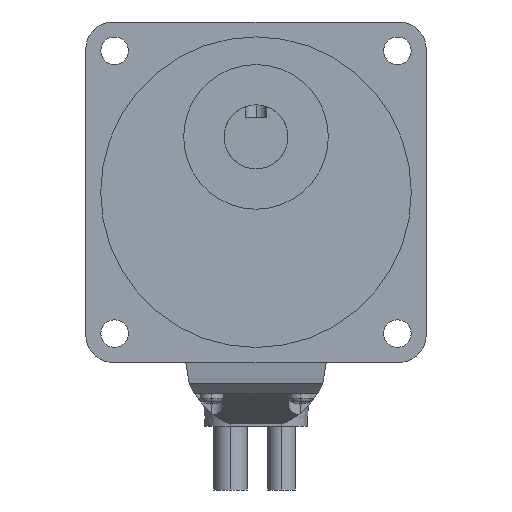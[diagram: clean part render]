
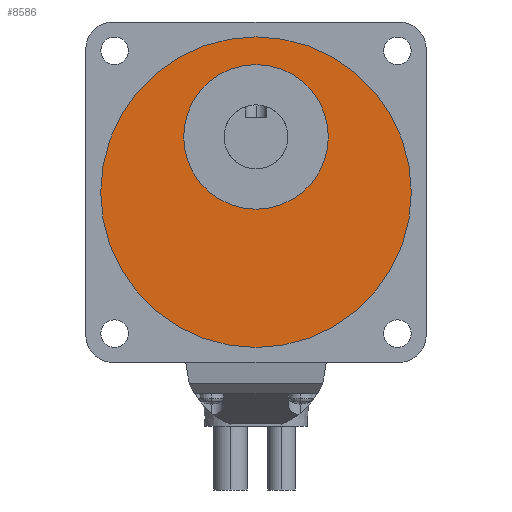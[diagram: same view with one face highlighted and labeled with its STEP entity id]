
A CAD part, front view. The second image highlights one B-rep face of the part: STEP entity #8586.
In plain terms, the highlighted planar face has unit normal (0, -1, 0).
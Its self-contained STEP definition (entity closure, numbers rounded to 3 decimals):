
#8478=CARTESIAN_POINT('POINT127952',(0.,
   1.,23.5));
#8479=VERTEX_POINT('VERTEX127952',#8478);
#8487=CARTESIAN_POINT('POINT127953',(0.,
   1.,-49.5));
#8488=VERTEX_POINT('VERTEX127953',#8487);
#8495=CARTESIAN_POINT('POS217952',(0.,1.,
   -13.));
#8496=DIRECTION('DIR309202',(0.,1.,
   0.));
#8497=DIRECTION('DIR309203',(0.,0.
   ,1.));
#8498=AXIS2_PLACEMENT_3D('AXIS91251',#8495,#8496,#8497);
#8499=CIRCLE('ELLIPSE33829',#8498,36.5);
#8500=EDGE_CURVE('EDGE197915',#8488,#8479,#8499,.T.);
#8511=EDGE_CURVE('EDGE197916',#8479,#8488,#8499,.T.);
#8562=ORIENTED_EDGE('COEDGE395955',*,*,#8511,.F.);
#8563=ORIENTED_EDGE('COEDGE395956',*,*,#8500,.F.);
#8564=EDGE_LOOP('NONE',(#8562,#8563));
#8565=FACE_BOUND('LOOP1',#8564,.T.);
#8566=CARTESIAN_POINT('POINT127956',(0.,
   1.,-17.));
#8567=VERTEX_POINT('VERTEX127956',#8566);
#8568=CARTESIAN_POINT('POINT127957',(0.,1.,
   17.));
#8569=VERTEX_POINT('VERTEX127957',#8568);
#8570=CARTESIAN_POINT('POS217958',(0.,1.,0.));
#8571=DIRECTION('DIR309212',(0.,1.,
   0.));
#8572=DIRECTION('DIR309213',(0.,
   0.,-1.));
#8573=AXIS2_PLACEMENT_3D('AXIS91255',#8570,#8571,#8572);
#8574=CIRCLE('ELLIPSE33831',#8573,17.);
#8575=EDGE_CURVE('EDGE197921',#8567,#8569,#8574,.T.);
#8576=ORIENTED_EDGE('COEDGE395957',*,*,#8575,.T.);
#8577=EDGE_CURVE('EDGE197922',#8569,#8567,#8574,.T.);
#8578=ORIENTED_EDGE('COEDGE395958',*,*,#8577,.T.);
#8579=EDGE_LOOP('NONE',(#8576,#8578));
#8580=FACE_BOUND('LOOP1',#8579,.T.);
#8581=CARTESIAN_POINT('POS217959',(0.,1.,
   -13.));
#8582=DIRECTION('DIR309214',(0.,1.,
   0.));
#8583=DIRECTION('DIR309215',(1.,0.,
   0.));
#8584=AXIS2_PLACEMENT_3D('AXIS91256',#8581,#8582,#8583);
#8585=PLANE('PLANE43805',#8584);
#8586=ADVANCED_FACE('FACE77103',(#8565,#8580),#8585,.F.);
